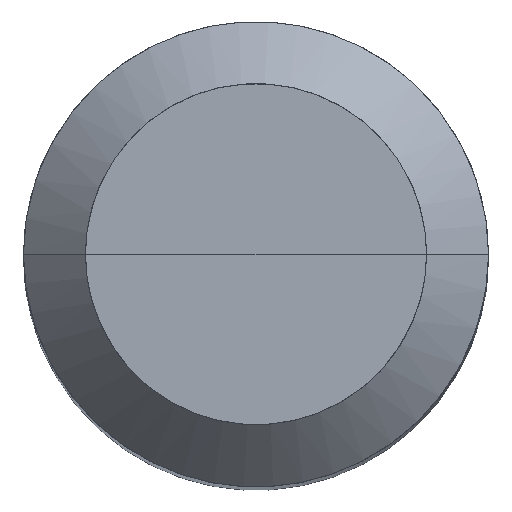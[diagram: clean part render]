
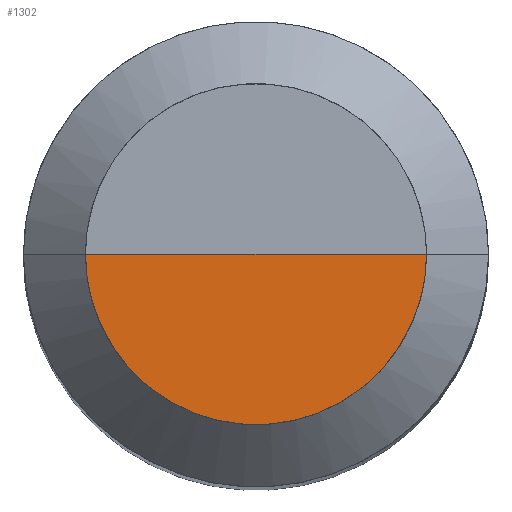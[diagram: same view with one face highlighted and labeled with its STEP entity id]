
A CAD part, top view. The second image highlights one B-rep face of the part: STEP entity #1302.
In plain terms, the highlighted free-form (B-spline) face has degree [1, 2] with [2, 5] control points.
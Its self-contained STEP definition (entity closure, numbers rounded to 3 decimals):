
#905=CARTESIAN_POINT('',(2.2,0.0,26.134));
#909=CARTESIAN_POINT('',(-2.2,0.0,26.134));
#910=CARTESIAN_POINT('',(0.0,0.0,26.134));
#920=CARTESIAN_POINT('',(-2.2,-2.2,26.134));
#921=CARTESIAN_POINT('',(0.0,-2.2,26.134));
#922=CARTESIAN_POINT('',(2.2,-2.2,26.134));
#1287=(
BOUNDED_SURFACE()
B_SPLINE_SURFACE(1,2,(
(#909,#920,#921,#922,#905),
(#910,#910,#910,#910,#910)
), .UNSPECIFIED.,.F.,.F.,.F.)
B_SPLINE_SURFACE_WITH_KNOTS((2,2),(3,2,3),(
0.0,1.0),(
0.0,0.5,1.0), .UNSPECIFIED.)
GEOMETRIC_REPRESENTATION_ITEM()
RATIONAL_B_SPLINE_SURFACE(((1.0,0.707,1.0,0.707,1.0),
(1.0,0.707,1.0,0.707,1.0)
))
REPRESENTATION_ITEM('')
SURFACE()
);
#1288=(
BOUNDED_CURVE()
B_SPLINE_CURVE(2,(#905,#922,#921,#920,#909),.UNSPECIFIED.,.F.,.F.)
B_SPLINE_CURVE_WITH_KNOTS((3,2,3),
(0.0,0.5,1.0),.UNSPECIFIED.)
CURVE()
GEOMETRIC_REPRESENTATION_ITEM()
RATIONAL_B_SPLINE_CURVE((1.0,0.707,1.0,0.707,1.0))
REPRESENTATION_ITEM('')
);
#1289=(
BOUNDED_CURVE()
B_SPLINE_CURVE(1,(#909,#910),.UNSPECIFIED.,.F.,.F.)
B_SPLINE_CURVE_WITH_KNOTS((2,2),
(0.0,1.0),.UNSPECIFIED.)
CURVE()
GEOMETRIC_REPRESENTATION_ITEM()
RATIONAL_B_SPLINE_CURVE((1.0,1.0))
REPRESENTATION_ITEM('')
);
#1290=(
BOUNDED_CURVE()
B_SPLINE_CURVE(1,(#910,#905),.UNSPECIFIED.,.F.,.F.)
B_SPLINE_CURVE_WITH_KNOTS((2,2),
(0.0,1.0),.UNSPECIFIED.)
CURVE()
GEOMETRIC_REPRESENTATION_ITEM()
RATIONAL_B_SPLINE_CURVE((1.0,1.0))
REPRESENTATION_ITEM('')
);
#1291=VERTEX_POINT('',#905);
#1292=VERTEX_POINT('',#909);
#1293=VERTEX_POINT('',#910);
#1294=EDGE_CURVE('',#1291,#1292,#1288,.T.);
#1295=EDGE_CURVE('',#1292,#1293,#1289,.T.);
#1296=EDGE_CURVE('',#1293,#1291,#1290,.T.);
#1297=ORIENTED_EDGE('',*,*,#1294,.T.);
#1298=ORIENTED_EDGE('',*,*,#1295,.T.);
#1299=ORIENTED_EDGE('',*,*,#1296,.T.);
#1300=EDGE_LOOP('',(#1297,#1298,#1299));
#1301=FACE_OUTER_BOUND('',#1300,.T.);
#1302=ADVANCED_FACE('',(#1301),#1287,.T.);
